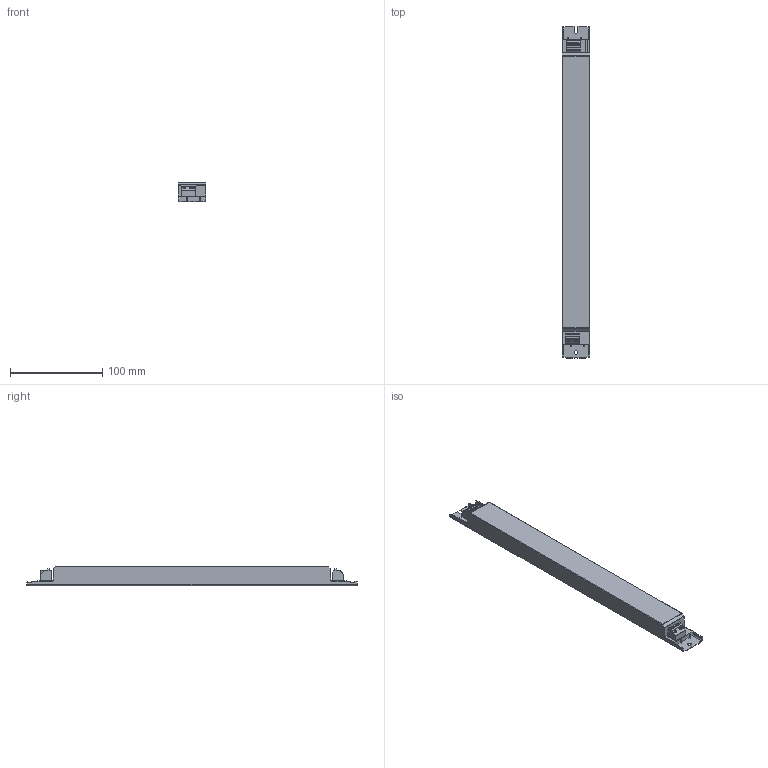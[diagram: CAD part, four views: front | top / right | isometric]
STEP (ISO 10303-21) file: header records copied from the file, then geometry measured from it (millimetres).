
FILE_DESCRIPTION((''),'2;1');
FILE_NAME('0003651563','2019-08-05T15:48:00',('elon.guo'),(''),'CREO PARAMETRIC BY PTC INC, 2019030','CREO PARAMETRIC BY PTC INC, 2019030','');
FILE_SCHEMA(('CONFIG_CONTROL_DESIGN'));
Length unit declared in the file: millimetre
Products named in the file (4): 15010982_00; 0003651558; 0003651566; 0003651563
Assembly tree (3 placements, depth 2):
  0003651563
    15010982_00
    0003651558
    0003651566
Bounding box: 30 x 360 x 21 mm (x, y, z)
Volume: 198474.6 mm3; surface area: 37840.5 mm2
Topology: 3 solids, 3 shells, 173 faces, 472 edges, 314 vertices
Faces by surface type: plane 104, cylinder 69
Entity records: 5609 total; most frequent: CARTESIAN_POINT 993, DIRECTION 960, ORIENTED_EDGE 944, EDGE_CURVE 472, VECTOR 328, LINE 328, AXIS2_PLACEMENT_3D 316, VERTEX_POINT 314
